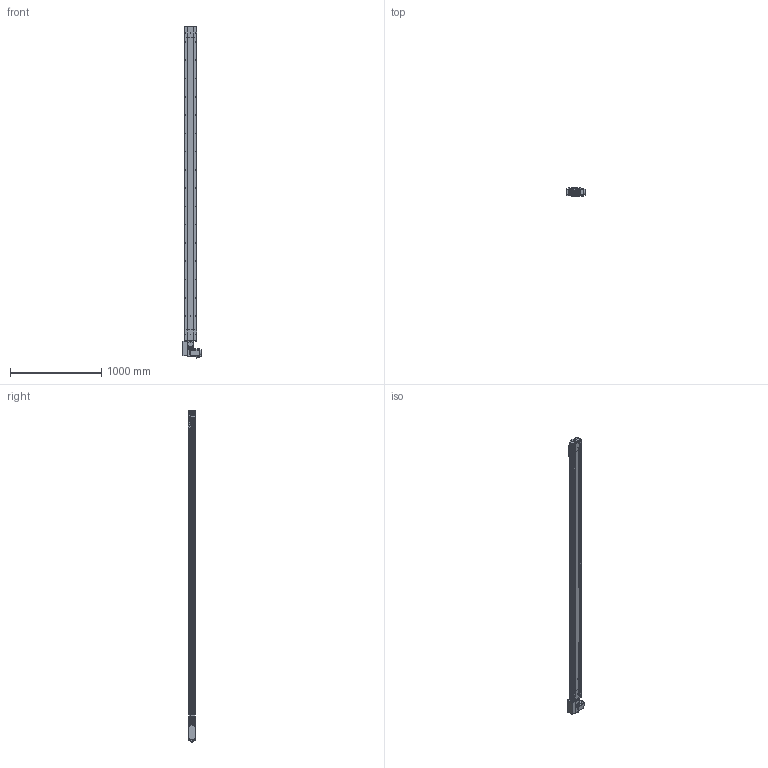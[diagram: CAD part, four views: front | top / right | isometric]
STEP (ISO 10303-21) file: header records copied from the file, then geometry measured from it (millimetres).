
FILE_DESCRIPTION (( 'STEP AP214' ), '1' );
FILE_NAME ('D14 TBH RH S3200.STEP', '2010-06-29T14:50:48', ( 'Conseil Régional Haute-Normandie' ), ( 'Conseil Régional Haute-Normandie' ), 'SwSTEP 2.0', 'SolidWorks 2010', '' );
FILE_SCHEMA (( 'AUTOMOTIVE_DESIGN' ));
Length unit declared in the file: millimetre
Products named in the file (39): couroie 2_Default; codeur 90BLDC100-640; avant 90BLDC100A-640; D14 TBH RH S3200; corps 90BLDC100A-640; Moteur motionking 90BLDC100A-640; couvercle D14 head_Default; Cache arbre_Default; renvoi RH_Default; Vis M5 L16-2_Default; Chariot D14; vis M5 L5_Default; chariot D14B_Default; Cvis M5 L70_Default; Conecteur2_Default; Conecteur_Default; Plaque racord D14_Default; Cache_Default; vis M5 L12_Default; guide D14; corpl tail D14_Default; plaque de  bout head D14 RH_Default; poulie head_Default; Arbre+rail head D14; vis M5 L16_Default; corpl 3200_Default; D14 TB H RH_Default; D14 couroie L3200_Default; corp head D14_Default; Tail D14B_Default; tete d''axe haut D14; vis M5 L8 90°_Default; Couroie_Default; poulie tail_Default; plaque de  bout tail D14_Default; couvercle D14 course L3200_Default; couvercle D14_Default; Arbre+rail tail D14; Rail + couroie D14 Course 3200 
Assembly tree (68 placements, depth 4):
  D14 TBH RH S3200
    D14 couroie L3200_Default
      Rail + couroie D14 Course 3200 
      couvercle D14 course L3200_Default
      corpl 3200_Default
    D14 TB H RH_Default
      vis M5 L12_Default  x12
      vis M5 L5_Default  x2
      poulie head_Default
      renvoi RH_Default
      Cvis M5 L70_Default  x4
      Cache_Default  x2
      Plaque racord D14_Default
      Moteur motionking 90BLDC100A-640
        Conecteur_Default
        Conecteur2_Default
        avant 90BLDC100A-640
        corps 90BLDC100A-640
        codeur 90BLDC100-640
      Arbre+rail head D14
      Vis M5 L16-2_Default  x4
      corp head D14_Default
      couroie 2_Default
      plaque de  bout head D14 RH_Default
      couvercle D14 head_Default
      Cache arbre_Default
    Tail D14B_Default
      vis M5 L12_Default  x4
      poulie tail_Default
      vis M5 L16_Default  x2
      vis M5 L8 90°_Default  x2
      Couroie_Default
      tete d''axe haut D14
      Arbre+rail tail D14
      plaque de  bout tail D14_Default
      corpl tail D14_Default
      couvercle D14_Default
    chariot D14B_Default
      vis M5 L12_Default  x4
      Chariot D14
      guide D14  x2
Bounding box: 207.2 x 85.9 x 3632.45 mm (x, y, z)
Volume: 12767949.9 mm3; surface area: 4708902.5 mm2
Topology: 92 solids, 92 shells, 2789 faces, 6791 edges, 4386 vertices
Faces by surface type: plane 1629, cylinder 847, bspline 136, torus 89, cone 84, sphere 4
Entity records: 83852 total; most frequent: CARTESIAN_POINT 24305, ORIENTED_EDGE 10442, DIRECTION 10416, EDGE_CURVE 5221, AXIS2_PLACEMENT_3D 3511, VERTEX_POINT 3436, VECTOR 3394, LINE 3394
